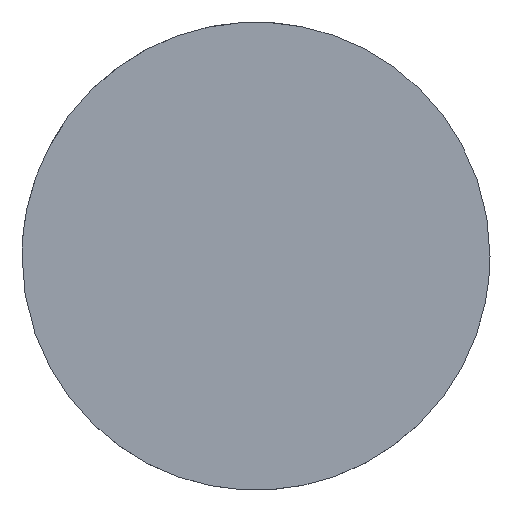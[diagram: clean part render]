
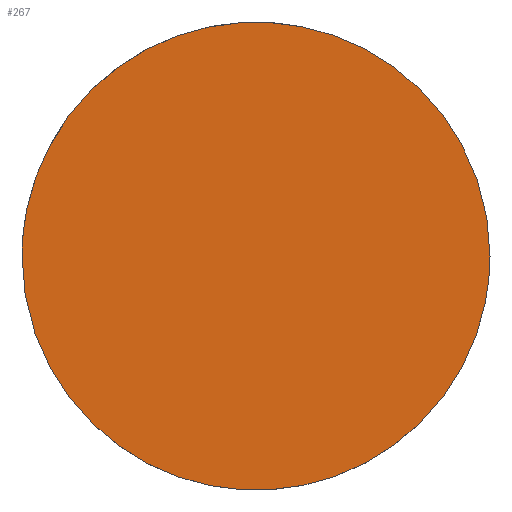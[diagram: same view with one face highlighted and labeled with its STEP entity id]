
A CAD part, top view. The second image highlights one B-rep face of the part: STEP entity #267.
In plain terms, the highlighted planar face has unit normal (0, 0, 1).
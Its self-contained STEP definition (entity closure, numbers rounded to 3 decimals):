
#19 = CARTESIAN_POINT ('', (-25., 0., -36.994));
#20 = VERTEX_POINT ('', #19);
#26 = CARTESIAN_POINT ('', (25., 0., -36.994));
#27 = VERTEX_POINT ('', #26);
#28 = CARTESIAN_POINT ('', (25., 0., -36.994));
#29 = CARTESIAN_POINT ('', (25., 25., -36.994));
#30 = CARTESIAN_POINT ('', (0., 25., -36.994));
#31 = CARTESIAN_POINT ('', (-25., 25., -36.994));
#32 = CARTESIAN_POINT ('', (-25., 0., -36.994));
#33 = (
   BOUNDED_CURVE ()
   B_SPLINE_CURVE (2, (#28, #29, #30, #31, #32), .UNSPECIFIED., .F., .U.)
   B_SPLINE_CURVE_WITH_KNOTS ((3, 2, 3), (0., 1.571, 3.142), .UNSPECIFIED.)
   CURVE ()
   GEOMETRIC_REPRESENTATION_ITEM ()
   RATIONAL_B_SPLINE_CURVE ((1., 0.707, 1., 0.707, 1.))
   REPRESENTATION_ITEM ('')
);
#34 = EDGE_CURVE ('', #27, #20, #33, .T.);
#58 = CARTESIAN_POINT ('', (-25., 0., -36.994));
#59 = CARTESIAN_POINT ('', (-25., -25., -36.994));
#60 = CARTESIAN_POINT ('', (0., -25., -36.994));
#61 = CARTESIAN_POINT ('', (25., -25., -36.994));
#62 = CARTESIAN_POINT ('', (25., 0., -36.994));
#63 = (
   BOUNDED_CURVE ()
   B_SPLINE_CURVE (2, (#58, #59, #60, #61, #62), .UNSPECIFIED., .F., .U.)
   B_SPLINE_CURVE_WITH_KNOTS ((3, 2, 3), (3.142, 4.712, 6.283), .UNSPECIFIED.)
   CURVE ()
   GEOMETRIC_REPRESENTATION_ITEM ()
   RATIONAL_B_SPLINE_CURVE ((1., 0.707, 1., 0.707, 1.))
   REPRESENTATION_ITEM ('')
);
#64 = EDGE_CURVE ('', #20, #27, #63, .T.);
#258 = ORIENTED_EDGE ('', *, *, #34, .T.);
#259 = ORIENTED_EDGE ('', *, *, #64, .T.);
#260 = EDGE_LOOP ('', (#258, #259));
#261 = FACE_OUTER_BOUND ('', #260, .T.);
#262 = CARTESIAN_POINT ('', (0., 51.204, -36.994));
#263 = DIRECTION ('', (0., 0., 1.));
#264 = DIRECTION ('', (-0.707, -0.707, 0.));
#265 = AXIS2_PLACEMENT_3D ('', #262, #263, #264);
#266 = PLANE ('', #265);
#267 = ADVANCED_FACE ('', (#261), #266, .T.);
